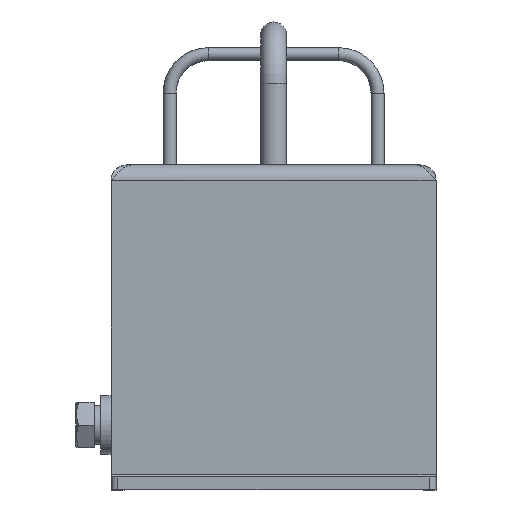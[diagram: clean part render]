
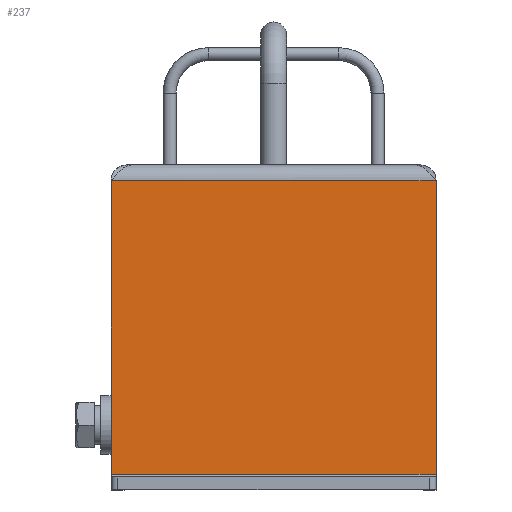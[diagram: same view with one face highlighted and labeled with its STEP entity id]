
A CAD part, left-side view. The second image highlights one B-rep face of the part: STEP entity #237.
In plain terms, the highlighted planar face has unit normal (-1, 0, 0).
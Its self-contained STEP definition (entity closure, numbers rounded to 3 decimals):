
#237=ADVANCED_FACE('',(#2969),#2971,.T.);
#2969=FACE_OUTER_BOUND('',#2970,.T.);
#2970=EDGE_LOOP('',(#5981,#5982,#5983,#5984));
#2971=PLANE('',#2972);
#2972=AXIS2_PLACEMENT_3D('',#2973,#2974,#2975);
#2973=CARTESIAN_POINT('',(-43.5,0.,42.585));
#2974=DIRECTION('',(-1.,0.,0.));
#2975=DIRECTION('',(0.,0.,1.));
#5981=ORIENTED_EDGE('',*,*,#8005,.F.);
#5982=ORIENTED_EDGE('',*,*,#8006,.T.);
#5983=ORIENTED_EDGE('',*,*,#7892,.F.);
#5984=ORIENTED_EDGE('',*,*,#8007,.T.);
#7892=EDGE_CURVE('',#8905,#8906,#8907,.T.);
#8005=EDGE_CURVE('',#9083,#9084,#9085,.T.);
#8006=EDGE_CURVE('',#9083,#8906,#9086,.T.);
#8007=EDGE_CURVE('',#8905,#9084,#9087,.T.);
#8905=VERTEX_POINT('',#11364);
#8906=VERTEX_POINT('',#11365);
#8907=LINE('',#11366,#11367);
#9083=VERTEX_POINT('',#12019);
#9084=VERTEX_POINT('',#12020);
#9085=LINE('',#12021,#12022);
#9086=LINE('',#12024,#12025);
#9087=LINE('',#12027,#12028);
#11364=CARTESIAN_POINT('',(-43.5,25.,-0.4));
#11365=CARTESIAN_POINT('',(-43.5,-25.,-0.4));
#11366=CARTESIAN_POINT('',(-43.5,25.,-0.4));
#11367=VECTOR('',#11368,1.);
#11368=DIRECTION('',(0.,-1.,0.));
#12019=CARTESIAN_POINT('',(-43.5,-25.,-45.6));
#12020=CARTESIAN_POINT('',(-43.5,25.,-45.6));
#12021=CARTESIAN_POINT('',(-43.5,-25.,-45.6));
#12022=VECTOR('',#12023,1.);
#12023=DIRECTION('',(0.,1.,0.));
#12024=CARTESIAN_POINT('',(-43.5,-25.,-45.6));
#12025=VECTOR('',#12026,1.);
#12026=DIRECTION('',(0.,0.,1.));
#12027=CARTESIAN_POINT('',(-43.5,25.,-0.4));
#12028=VECTOR('',#12029,1.);
#12029=DIRECTION('',(0.,0.,-1.));
